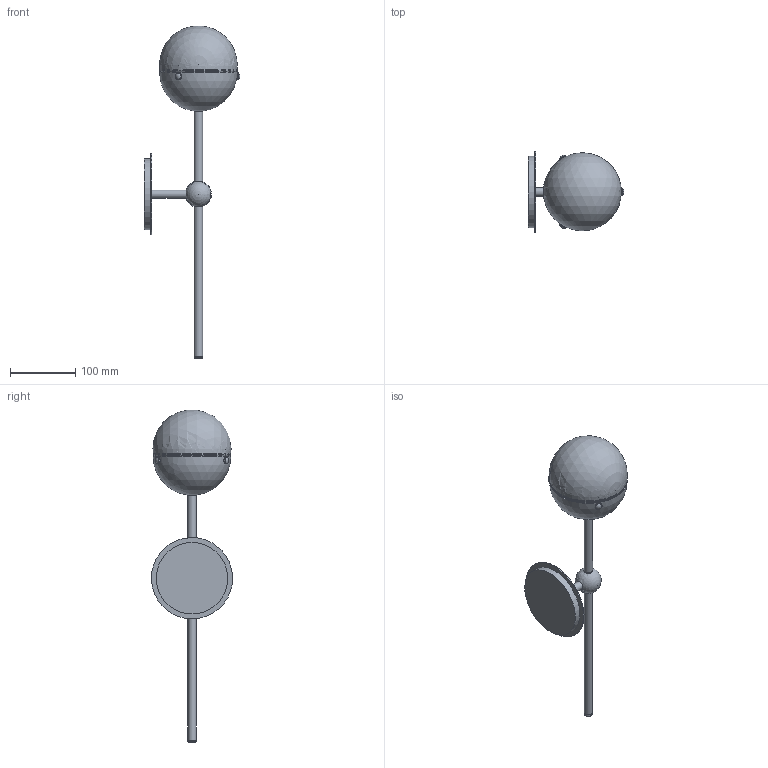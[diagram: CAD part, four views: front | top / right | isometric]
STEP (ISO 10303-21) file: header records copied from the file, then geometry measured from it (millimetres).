
FILE_DESCRIPTION(/* description */ (''),/* implementation_level */ '2;1');
FILE_NAME(/* name */ 'T:\B327 Molecule Single Sconce\Pliki bryłowe handlowe\B327 Molecule Single 3D files_na stronę\B327 Molecule Single.stp',/* time_stamp */ '2022-02-02T15:46:31+01:00',/* author */ ('Mariusz Awariusz'),/* organization */ (''),/* preprocessor_version */ 'ST-DEVELOPER v18.1',/* originating_system */ 'Autodesk Inventor 2022',/* authorisation */ '');
FILE_SCHEMA (('AUTOMOTIVE_DESIGN { 1 0 10303 214 3 1 1 }'));
Length unit declared in the file: millimetre
Products named in the file (1): B327 Molecule Single Sconce_na potrzeby plików 3D_jako część_
korpusy bryłowe
Bounding box: 147.03 x 124.89 x 510.63 mm (x, y, z)
Volume: 321759 mm3; surface area: 247294.8 mm2
Topology: 196 solids, 196 shells, 1619 faces, 3639 edges, 2409 vertices
Faces by surface type: plane 1300, cylinder 224, bspline 48, torus 20, cone 14, sphere 13
Full cylindrical faces by diameter (mm): 3.242 x3, 3.7 x1, 4 x3, 6 x6, 8.6 x1, 10 x3, 11.6 x3, 11.917 x1, 13 x7, 13.1 x1, 13.5 x3, 20.6 x1, 22 x1, 23.1 x1, 23.5 x1, 109 x2, 110 x1, 112 x2, 125 x1
Entity records: 46402 total; most frequent: CARTESIAN_POINT 10021, ORIENTED_EDGE 7258, DIRECTION 7214, EDGE_CURVE 3629, LINE 2942, VECTOR 2942, VERTEX_POINT 2409, AXIS2_PLACEMENT_3D 2136
